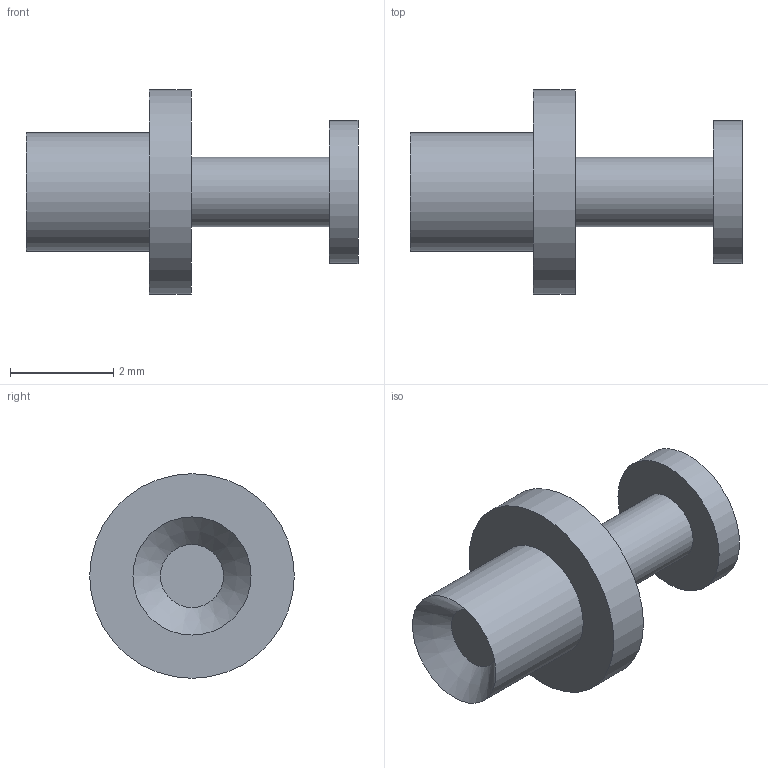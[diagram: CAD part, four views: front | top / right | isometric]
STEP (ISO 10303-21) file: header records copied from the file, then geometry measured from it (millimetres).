
FILE_DESCRIPTION(/* description */ (''),/* implementation_level */ '2;1');
FILE_NAME(/* name */ 'Z:\STEP folder\160-1040-02.ipt.stp',/* time_stamp */ '2016-12-07T10:45:59+00:00',/* author */ ('Paul Karlsons'),/* organization */ (''),/* preprocessor_version */ 'ST-DEVELOPER v15.2',/* originating_system */ 'Autodesk Inventor 2014',/* authorisation */ '');
FILE_SCHEMA (('AUTOMOTIVE_DESIGN { 1 0 10303 214 3 1 1 }'));
Length unit declared in the file: millimetre
Products named in the file (1): 160-1040-02
Bounding box: 6.43 x 3.96 x 3.96 mm (x, y, z)
Volume: 25.6 mm3; surface area: 78.4 mm2
Topology: 1 solids, 1 shells, 10 faces, 14 edges, 9 vertices
Faces by surface type: plane 5, cylinder 4, cone 1
Full cylindrical faces by diameter (mm): 1.346 x1, 2.286 x1, 2.769 x1, 3.96 x1
Entity records: 215 total; most frequent: DIRECTION 40, CARTESIAN_POINT 29, AXIS2_PLACEMENT_3D 20, EDGE_LOOP 18, ORIENTED_EDGE 18, ADVANCED_FACE 10, FACE_BOUND 9, FACE_OUTER_BOUND 9
